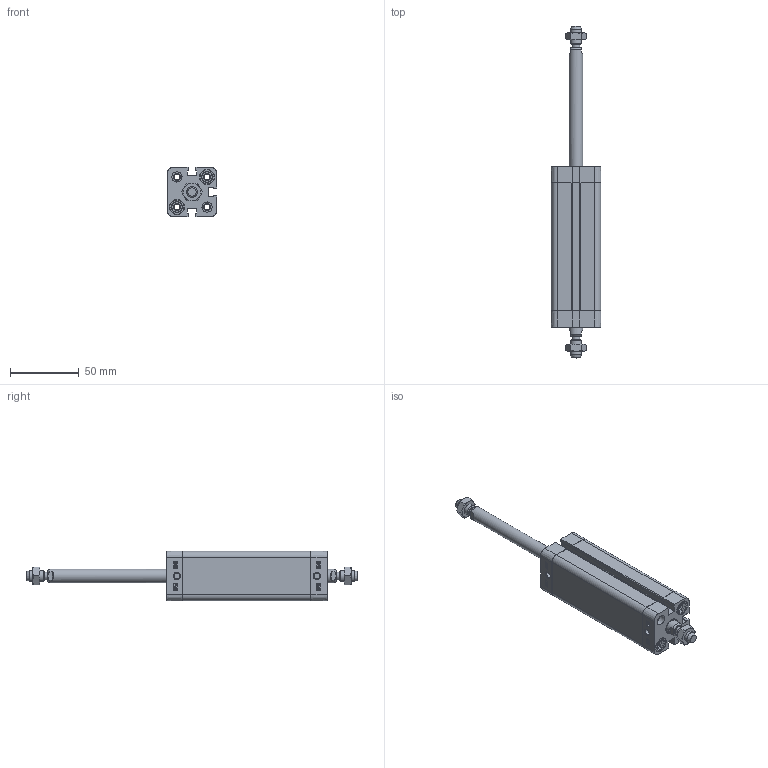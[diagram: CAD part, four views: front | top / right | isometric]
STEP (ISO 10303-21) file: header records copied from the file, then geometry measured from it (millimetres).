
FILE_DESCRIPTION(/* description */ ('Unknown'),/* implementation_level */ '2;1');
FILE_NAME(/* name */ 'ZBF 20_80',/* time_stamp */ '2025-01-28T08:43:42+01:00',/* author */ ('Unknown'),/* organization */ ('HAFNER Pneumatika Kft'),/* preprocessor_version */ 'ST-DEVELOPER v16.7',/* originating_system */ 'Solid Edge',/* authorisation */ 'Unknown');
FILE_SCHEMA (('AUTOMOTIVE_DESIGN {1 0 10303 214 3 1 1}'));
Length unit declared in the file: millimetre
Products named in the file (5): ZBF 20_80; Profilrohr; Kolbenstange; Kit; Mutter
Assembly tree (7 placements, depth 2):
  ZBF 20_80
    Profilrohr
    Kolbenstange  x2
    Kit  x2
    Mutter  x2
Bounding box: 36.3 x 242 x 36.3 mm (x, y, z)
Volume: 108465.1 mm3; surface area: 56646.5 mm2
Topology: 7 solids, 11 shells, 659 faces, 1721 edges, 1126 vertices
Faces by surface type: plane 310, cylinder 159, bspline 86, cone 84, torus 20
Full cylindrical faces by diameter (mm): 4.134 x10, 5.8 x2, 6.647 x2, 7.5 x4, 7.55 x4, 8 x10, 10 x2, 10.48 x2, 10.9 x4, 11.1 x4, 11.4 x2, 12 x2, 13.84 x2, 14 x2, 20 x3
Entity records: 12943 total; most frequent: CARTESIAN_POINT 2491, ORIENTED_EDGE 1726, DIRECTION 1643, EDGE_CURVE 863, VERTEX_POINT 599, AXIS2_PLACEMENT_3D 579, LINE 485, VECTOR 485
